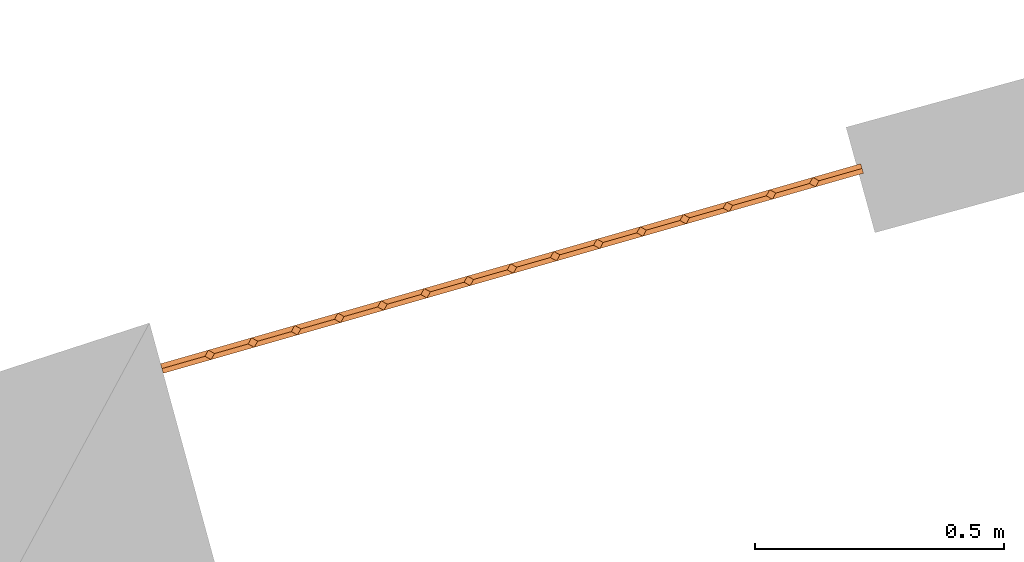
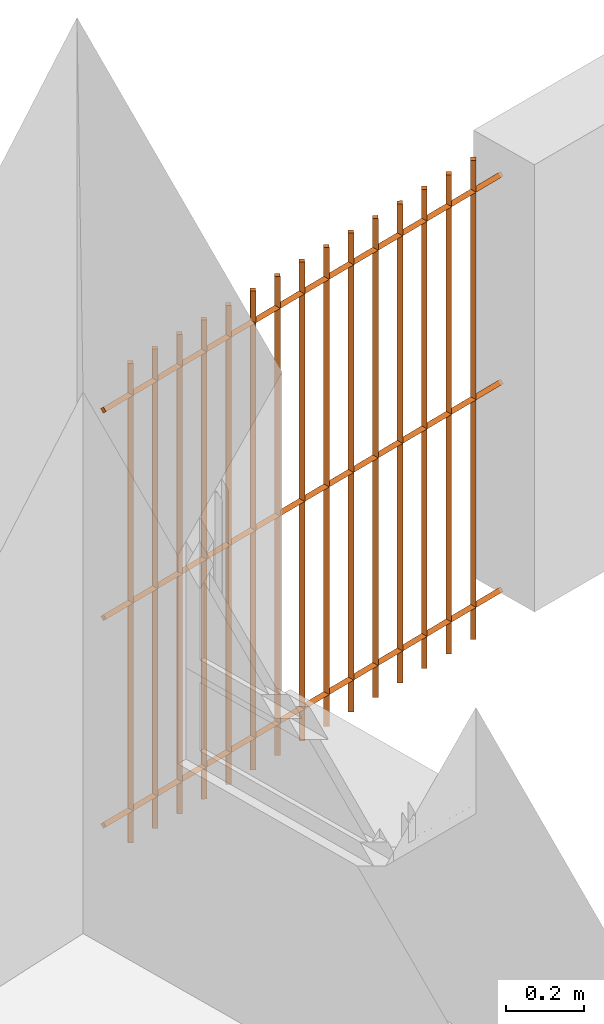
# One storey, part 195 of 195: 1 proxy.
"""IFC2X3 building model written with IfcOpenShell, lengths in metres."""

from ifc_helpers import new_model, entity, si_unit, converted_unit, derived_unit, money_unit, direction, frame, origin_with_axes, place, context, subcontext, project, spatial, faceted_brep, type_object, element, save


model = new_model("IFC2X3")

# Units and contexts
model_context = context("Model", 3, precision=1e-05, world=origin_with_axes(), true_north=direction((0.0, 1.0)))
body_context = subcontext(model_context, "Body", "Model", "MODEL_VIEW")
ifc_project = project(units=[si_unit("LENGTHUNIT", "METRE"), si_unit("AREAUNIT", "SQUARE_METRE"), si_unit("VOLUMEUNIT", "CUBIC_METRE"), converted_unit("PLANEANGLEUNIT", "DEGREE", entity("IfcPlaneAngleMeasure", 0.0174532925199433), si_unit("PLANEANGLEUNIT", "RADIAN"), dimensions=[0, 0, 0, 0, 0, 0, 0]), money_unit("CHF"), converted_unit("TIMEUNIT", "Year", entity("IfcTimeMeasure", 31557600.0), si_unit("TIMEUNIT", "SECOND"), dimensions=[0, 0, 1, 0, 0, 0, 0]), si_unit("MASSUNIT", "GRAM", prefix="KILO"), si_unit("THERMODYNAMICTEMPERATUREUNIT", "DEGREE_CELSIUS"), si_unit("LUMINOUSINTENSITYUNIT", "LUMEN"), si_unit("ENERGYUNIT", "JOULE", prefix="MEGA"), derived_unit("THERMALCONDUCTANCEUNIT", [(si_unit("POWERUNIT", "WATT"), 1), (si_unit("LENGTHUNIT", "METRE"), -1), (si_unit("THERMODYNAMICTEMPERATUREUNIT", "KELVIN"), -1)]), derived_unit("SPECIFICHEATCAPACITYUNIT", [(si_unit("ENERGYUNIT", "JOULE"), 1), (si_unit("MASSUNIT", "GRAM", prefix="KILO"), -1), (si_unit("THERMODYNAMICTEMPERATUREUNIT", "KELVIN"), -1)]), derived_unit("MASSDENSITYUNIT", [(si_unit("MASSUNIT", "GRAM", prefix="KILO"), 1), (si_unit("VOLUMEUNIT", "CUBIC_METRE"), -1)])], contexts=[model_context])

# Site, building, storey
site_placement = place(None, origin_with_axes())
site = spatial("IfcSite", under=ifc_project, at=site_placement, Name="Site", CompositionType="ELEMENT")
building_placement = place(site_placement, origin_with_axes())
building = spatial("IfcBuilding", under=site, at=building_placement, Name="Bâtiment", CompositionType="ELEMENT")
storey_placement = place(building_placement, origin_with_axes())
storey = spatial("IfcBuildingStorey", under=building, at=storey_placement, Name="rdc", CompositionType="ELEMENT", Elevation=0.0)

# Proxy
building_element_proxy_type = type_object("IfcBuildingElementProxyType", Name="Grille anti-effraction", PredefinedType="NOTDEFINED")
proxy_placement = place(storey_placement, frame((9587.587345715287, -1013.705166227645, 57.6), z_axis=(0.0, 0.0, 1.0), x_axis=(-0.9615011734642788, -0.2748008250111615, 0.0)))
element("IfcBuildingElementProxy", 1, at=proxy_placement, inside=storey, type_object=building_element_proxy_type, Name="Obj.-010", context=body_context, shape_type="Brep", body=[
    faceted_brep([(0.7324771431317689, -0.01, 0.1), (0.7324771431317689, 0.0, 0.09000000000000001), (0.7324771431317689, 0.01, 0.1), (0.7324771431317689, 0.0, 0.11), (-0.7324771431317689, -0.01, 0.1000000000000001), (-0.7324771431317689, 0.0, 0.0900000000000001), (-0.7324771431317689, 0.01, 0.1000000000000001), (-0.7324771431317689, 0.0, 0.1100000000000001)], [[[0, 1, 2, 3]], [[0, 4, 5, 1]], [[1, 5, 6, 2]], [[2, 6, 7, 3]], [[3, 7, 4, 0]], [[4, 7, 6, 5]]]),
    faceted_brep([(0.7324771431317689, -0.01, 0.75), (0.7324771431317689, 0.0, 0.74), (0.7324771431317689, 0.01, 0.75), (0.7324771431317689, 0.0, 0.76), (-0.7324771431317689, -0.01, 0.7500000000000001), (-0.7324771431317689, 0.0, 0.7400000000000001), (-0.7324771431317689, 0.01, 0.7500000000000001), (-0.7324771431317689, 0.0, 0.7600000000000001)], [[[0, 1, 2, 3]], [[0, 4, 5, 1]], [[1, 5, 6, 2]], [[2, 6, 7, 3]], [[3, 7, 4, 0]], [[4, 7, 6, 5]]]),
    faceted_brep([(0.7324771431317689, -0.01, 1.4), (0.7324771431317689, 0.0, 1.39), (0.7324771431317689, 0.01, 1.4), (0.7324771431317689, 0.0, 1.41), (-0.7324771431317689, -0.01, 1.4), (-0.7324771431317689, 0.0, 1.39), (-0.7324771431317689, 0.01, 1.4), (-0.7324771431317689, 0.0, 1.41)], [[[0, 1, 2, 3]], [[0, 4, 5, 1]], [[1, 5, 6, 2]], [[2, 6, 7, 3]], [[3, 7, 4, 0]], [[4, 7, 6, 5]]]),
    faceted_brep([(0.632477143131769, -0.01, 0.0), (0.6224771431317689, 0.0, 0.0), (0.632477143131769, 0.01, 0.0), (0.642477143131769, 0.0, 0.0), (0.632477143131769, -0.01, 1.5), (0.6224771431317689, 0.0, 1.5), (0.632477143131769, 0.01, 1.5), (0.642477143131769, 0.0, 1.5)], [[[0, 1, 2, 3]], [[0, 4, 5, 1]], [[1, 5, 6, 2]], [[2, 6, 7, 3]], [[3, 7, 4, 0]], [[4, 7, 6, 5]]]),
    faceted_brep([(0.5421232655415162, -0.01, 0.0), (0.5321232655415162, 0.0, 0.0), (0.5421232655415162, 0.01, 0.0), (0.5521232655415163, 0.0, 0.0), (0.5421232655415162, -0.01, 1.5), (0.5321232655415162, 0.0, 1.5), (0.5421232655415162, 0.01, 1.5), (0.5521232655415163, 0.0, 1.5)], [[[0, 1, 2, 3]], [[0, 4, 5, 1]], [[1, 5, 6, 2]], [[2, 6, 7, 3]], [[3, 7, 4, 0]], [[4, 7, 6, 5]]]),
    faceted_brep([(0.4517693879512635, -0.01, 0.0), (0.4417693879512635, 0.0, 0.0), (0.4517693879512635, 0.01, 0.0), (0.4617693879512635, 0.0, 0.0), (0.4517693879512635, -0.01, 1.5), (0.4417693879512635, 0.0, 1.5), (0.4517693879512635, 0.01, 1.5), (0.4617693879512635, 0.0, 1.5)], [[[0, 1, 2, 3]], [[0, 4, 5, 1]], [[1, 5, 6, 2]], [[2, 6, 7, 3]], [[3, 7, 4, 0]], [[4, 7, 6, 5]]]),
    faceted_brep([(0.3614155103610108, -0.01, 0.0), (0.3514155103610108, 0.0, 0.0), (0.3614155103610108, 0.01, 0.0), (0.3714155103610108, 0.0, 0.0), (0.3614155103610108, -0.01, 1.5), (0.3514155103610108, 0.0, 1.5), (0.3614155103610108, 0.01, 1.5), (0.3714155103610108, 0.0, 1.5)], [[[0, 1, 2, 3]], [[0, 4, 5, 1]], [[1, 5, 6, 2]], [[2, 6, 7, 3]], [[3, 7, 4, 0]], [[4, 7, 6, 5]]]),
    faceted_brep([(0.2710616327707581, -0.01, 0.0), (0.2610616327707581, 0.0, 0.0), (0.2710616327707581, 0.01, 0.0), (0.2810616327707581, 0.0, 0.0), (0.2710616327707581, -0.01, 1.5), (0.2610616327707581, 0.0, 1.5), (0.2710616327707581, 0.01, 1.5), (0.2810616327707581, 0.0, 1.5)], [[[0, 1, 2, 3]], [[0, 4, 5, 1]], [[1, 5, 6, 2]], [[2, 6, 7, 3]], [[3, 7, 4, 0]], [[4, 7, 6, 5]]]),
    faceted_brep([(0.1807077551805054, -0.01, 0.0), (0.1707077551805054, 0.0, 0.0), (0.1807077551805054, 0.01, 0.0), (0.1907077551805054, 0.0, 0.0), (0.1807077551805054, -0.01, 1.5), (0.1707077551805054, 0.0, 1.5), (0.1807077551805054, 0.01, 1.5), (0.1907077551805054, 0.0, 1.5)], [[[0, 1, 2, 3]], [[0, 4, 5, 1]], [[1, 5, 6, 2]], [[2, 6, 7, 3]], [[3, 7, 4, 0]], [[4, 7, 6, 5]]]),
    faceted_brep([(0.0903538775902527, -0.01, 0.0), (0.08035387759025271, 0.0, 0.0), (0.0903538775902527, 0.01, 0.0), (0.1003538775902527, 0.0, 0.0), (0.0903538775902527, -0.01, 1.5), (0.08035387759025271, 0.0, 1.5), (0.0903538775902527, 0.01, 1.5), (0.1003538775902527, 0.0, 1.5)], [[[0, 1, 2, 3]], [[0, 4, 5, 1]], [[1, 5, 6, 2]], [[2, 6, 7, 3]], [[3, 7, 4, 0]], [[4, 7, 6, 5]]]),
    faceted_brep([(0.0, -0.01, 0.0), (-0.01, 0.0, 0.0), (0.0, 0.01, 0.0), (0.01, 0.0, 0.0), (0.0, -0.01, 1.5), (-0.01, 0.0, 1.5), (0.0, 0.01, 1.5), (0.01, 0.0, 1.5)], [[[0, 1, 2, 3]], [[0, 4, 5, 1]], [[1, 5, 6, 2]], [[2, 6, 7, 3]], [[3, 7, 4, 0]], [[4, 7, 6, 5]]]),
    faceted_brep([(-0.0903538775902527, -0.01, 0.0), (-0.1003538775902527, 0.0, 0.0), (-0.0903538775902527, 0.01, 0.0), (-0.08035387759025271, 0.0, 0.0), (-0.0903538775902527, -0.01, 1.5), (-0.1003538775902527, 0.0, 1.5), (-0.0903538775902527, 0.01, 1.5), (-0.08035387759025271, 0.0, 1.5)], [[[0, 1, 2, 3]], [[0, 4, 5, 1]], [[1, 5, 6, 2]], [[2, 6, 7, 3]], [[3, 7, 4, 0]], [[4, 7, 6, 5]]]),
    faceted_brep([(-0.1807077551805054, -0.01, 0.0), (-0.1907077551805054, 0.0, 0.0), (-0.1807077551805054, 0.01, 0.0), (-0.1707077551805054, 0.0, 0.0), (-0.1807077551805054, -0.01, 1.5), (-0.1907077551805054, 0.0, 1.5), (-0.1807077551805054, 0.01, 1.5), (-0.1707077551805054, 0.0, 1.5)], [[[0, 1, 2, 3]], [[0, 4, 5, 1]], [[1, 5, 6, 2]], [[2, 6, 7, 3]], [[3, 7, 4, 0]], [[4, 7, 6, 5]]]),
    faceted_brep([(-0.2710616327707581, -0.01, 0.0), (-0.2810616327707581, 0.0, 0.0), (-0.2710616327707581, 0.01, 0.0), (-0.2610616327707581, 0.0, 0.0), (-0.2710616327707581, -0.01, 1.5), (-0.2810616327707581, 0.0, 1.5), (-0.2710616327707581, 0.01, 1.5), (-0.2610616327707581, 0.0, 1.5)], [[[0, 1, 2, 3]], [[0, 4, 5, 1]], [[1, 5, 6, 2]], [[2, 6, 7, 3]], [[3, 7, 4, 0]], [[4, 7, 6, 5]]]),
    faceted_brep([(-0.3614155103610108, -0.01, 0.0), (-0.3714155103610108, 0.0, 0.0), (-0.3614155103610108, 0.01, 0.0), (-0.3514155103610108, 0.0, 0.0), (-0.3614155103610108, -0.01, 1.5), (-0.3714155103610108, 0.0, 1.5), (-0.3614155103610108, 0.01, 1.5), (-0.3514155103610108, 0.0, 1.5)], [[[0, 1, 2, 3]], [[0, 4, 5, 1]], [[1, 5, 6, 2]], [[2, 6, 7, 3]], [[3, 7, 4, 0]], [[4, 7, 6, 5]]]),
    faceted_brep([(-0.4517693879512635, -0.01, 0.0), (-0.4617693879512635, 0.0, 0.0), (-0.4517693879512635, 0.01, 0.0), (-0.4417693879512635, 0.0, 0.0), (-0.4517693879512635, -0.01, 1.5), (-0.4617693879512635, 0.0, 1.5), (-0.4517693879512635, 0.01, 1.5), (-0.4417693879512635, 0.0, 1.5)], [[[0, 1, 2, 3]], [[0, 4, 5, 1]], [[1, 5, 6, 2]], [[2, 6, 7, 3]], [[3, 7, 4, 0]], [[4, 7, 6, 5]]]),
    faceted_brep([(-0.5421232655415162, -0.01, 0.0), (-0.5521232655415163, 0.0, 0.0), (-0.5421232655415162, 0.01, 0.0), (-0.5321232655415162, 0.0, 0.0), (-0.5421232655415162, -0.01, 1.5), (-0.5521232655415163, 0.0, 1.5), (-0.5421232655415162, 0.01, 1.5), (-0.5321232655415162, 0.0, 1.5)], [[[0, 1, 2, 3]], [[0, 4, 5, 1]], [[1, 5, 6, 2]], [[2, 6, 7, 3]], [[3, 7, 4, 0]], [[4, 7, 6, 5]]]),
    faceted_brep([(-0.632477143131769, -0.01, 0.0), (-0.642477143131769, 0.0, 0.0), (-0.632477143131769, 0.01, 0.0), (-0.6224771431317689, 0.0, 0.0), (-0.632477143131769, -0.01, 1.5), (-0.642477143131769, 0.0, 1.5), (-0.632477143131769, 0.01, 1.5), (-0.6224771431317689, 0.0, 1.5)], [[[0, 1, 2, 3]], [[0, 4, 5, 1]], [[1, 5, 6, 2]], [[2, 6, 7, 3]], [[3, 7, 4, 0]], [[4, 7, 6, 5]]]),
])

save(model, "model.ifc")
